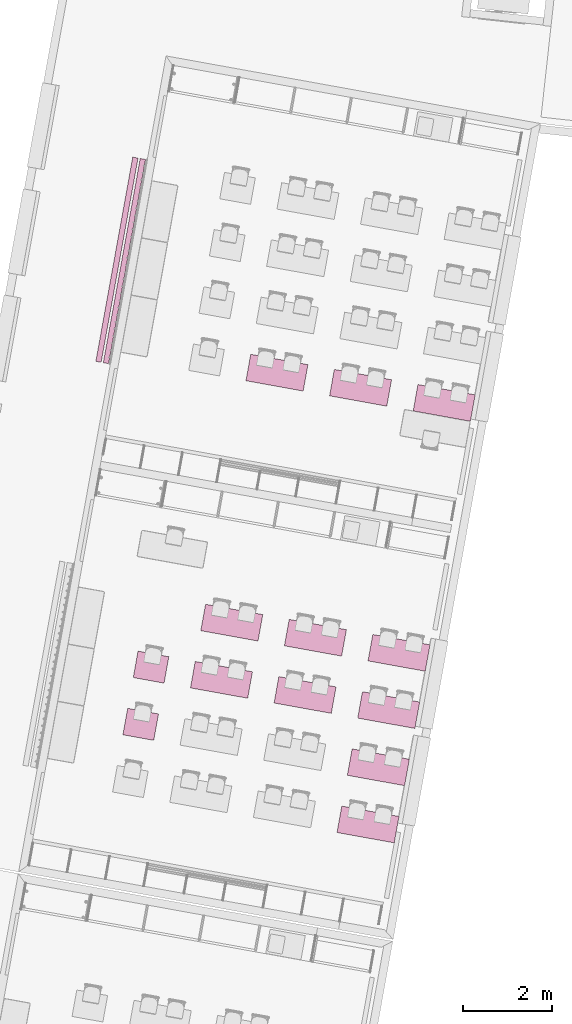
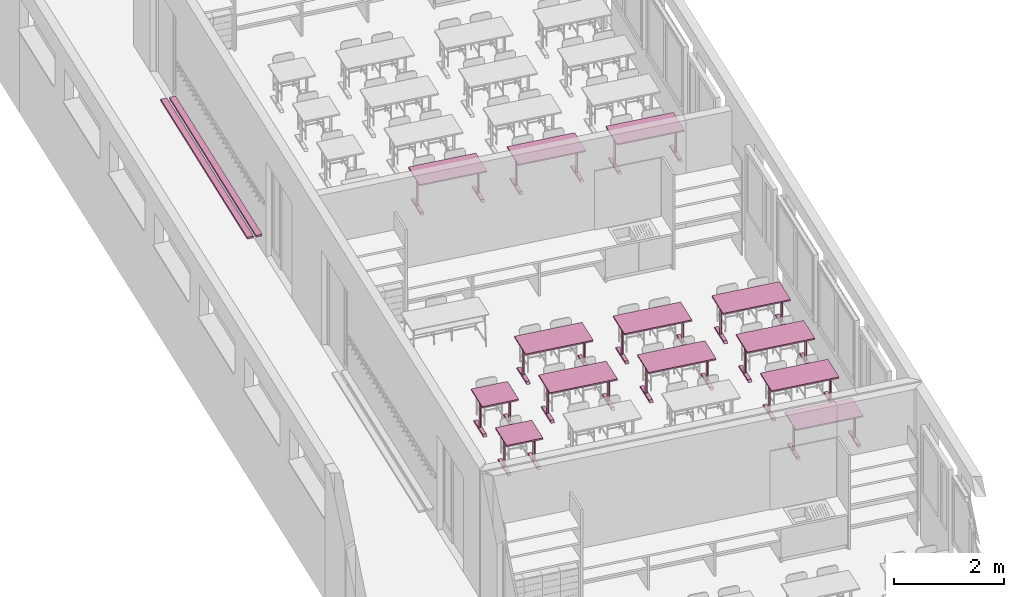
# One storey, part 11 of 79: 14 furnishings.
"""IFC2X3 building model written with IfcOpenShell, lengths in metres."""

from ifc_helpers import new_model, entity, si_unit, converted_unit, derived_unit, money_unit, direction, frame, origin_with_axes, place, context, subcontext, project, spatial, faceted_brep, source, transform, mapped, material, type_object, element, save


model = new_model("IFC2X3")

# Units and contexts
model_context = context("Model", 3, precision=1e-05, world=origin_with_axes(), true_north=direction((0.0, 1.0)))
body_context = subcontext(model_context, "Body", "Model", "MODEL_VIEW")
ifc_project = project(units=[si_unit("LENGTHUNIT", "METRE"), si_unit("AREAUNIT", "SQUARE_METRE"), si_unit("VOLUMEUNIT", "CUBIC_METRE"), converted_unit("PLANEANGLEUNIT", "DEGREE", entity("IfcPlaneAngleMeasure", 0.0174532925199), si_unit("PLANEANGLEUNIT", "RADIAN"), dimensions=[0, 0, 0, 0, 0, 0, 0]), money_unit("CHF"), converted_unit("TIMEUNIT", "Year", entity("IfcTimeMeasure", 31556926.0), si_unit("TIMEUNIT", "SECOND"), dimensions=[0, 0, 1, 0, 0, 0, 0]), si_unit("MASSUNIT", "GRAM", prefix="KILO"), si_unit("THERMODYNAMICTEMPERATUREUNIT", "DEGREE_CELSIUS"), si_unit("LUMINOUSINTENSITYUNIT", "LUMEN"), si_unit("ENERGYUNIT", "JOULE", prefix="MEGA"), derived_unit("THERMALCONDUCTANCEUNIT", [(si_unit("POWERUNIT", "WATT"), 1), (si_unit("LENGTHUNIT", "METRE"), -1), (si_unit("THERMODYNAMICTEMPERATUREUNIT", "KELVIN"), -1)]), derived_unit("SPECIFICHEATCAPACITYUNIT", [(si_unit("ENERGYUNIT", "JOULE"), 1), (si_unit("MASSUNIT", "GRAM", prefix="KILO"), -1), (si_unit("THERMODYNAMICTEMPERATUREUNIT", "KELVIN"), -1)]), derived_unit("MASSDENSITYUNIT", [(si_unit("MASSUNIT", "GRAM", prefix="KILO"), 1), (si_unit("VOLUMEUNIT", "CUBIC_METRE"), -1)])], contexts=[model_context])

# Site, building, storey
site_placement = place(None, frame((0.0, 0.0, 0.0), z_axis=(0.0, 0.0, 1.0), x_axis=(-0.177771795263, -0.984071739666, 0.0)))
site = spatial("IfcSite", under=ifc_project, at=site_placement, Name="Site", CompositionType="ELEMENT")
building_placement = place(site_placement, origin_with_axes())
building = spatial("IfcBuilding", under=site, at=building_placement, Name="Bâtiment", CompositionType="ELEMENT")
storey_placement = place(building_placement, origin_with_axes())
storey = spatial("IfcBuildingStorey", under=building, at=storey_placement, Name="RDC", CompositionType="ELEMENT", Elevation=0.0)

# Furnishings
ifc_material_1 = material(Name="Matériau de construction IFC")
furnishing_element_type_1 = type_object("IfcFurnishingElementType", Name="Table de bureau 21")
shared_shape_1 = source(origin_with_axes(), body_context, "Body", "Brep", [
    faceted_brep([(0.0, 0.0, 0.7), (0.0, 0.0, 0.67), (1.3, 0.0, 0.67), (1.3, 0.0, 0.7), (0.0, 0.6, 0.7), (0.0, 0.6, 0.67), (1.3, 0.6, 0.67), (1.3, 0.6, 0.7)], [[[0, 1, 2, 3]], [[4, 5, 1, 0]], [[1, 5, 6, 2]], [[3, 2, 6, 7]], [[0, 3, 7, 4]], [[7, 6, 5, 4]]]),
    faceted_brep([(0.03, 0.025, 0.0), (0.03, 0.575, 0.0), (0.1, 0.575, 0.0), (0.1, 0.025, 0.0), (0.03, 0.065, 0.04), (0.03, 0.535, 0.04), (0.1, 0.535, 0.04), (0.1, 0.065, 0.04)], [[[0, 1, 2, 3]], [[1, 0, 4, 5]], [[1, 5, 6, 2]], [[3, 2, 6, 7]], [[4, 0, 3, 7]], [[5, 4, 7, 6]]]),
    faceted_brep([(0.09, 0.3, 0.04), (0.065, 0.275, 0.04), (0.04, 0.3, 0.04), (0.065, 0.325, 0.04), (0.09, 0.3, 0.62), (0.065, 0.275, 0.62), (0.04, 0.3, 0.62), (0.065, 0.325, 0.62)], [[[0, 1, 2, 3]], [[1, 0, 4, 5]], [[2, 1, 5, 6]], [[3, 2, 6, 7]], [[0, 3, 7, 4]], [[4, 7, 6, 5]]]),
    faceted_brep([(0.085, 0.3, 0.62), (0.065, 0.28, 0.62), (0.045, 0.3, 0.62), (0.065, 0.32, 0.62), (0.085, 0.3, 0.67), (0.065, 0.28, 0.67), (0.045, 0.3, 0.67), (0.065, 0.32, 0.67)], [[[0, 1, 2, 3]], [[1, 0, 4, 5]], [[2, 1, 5, 6]], [[3, 2, 6, 7]], [[0, 3, 7, 4]], [[4, 7, 6, 5]]]),
    faceted_brep([(1.2, 0.025, 0.0), (1.2, 0.575, 0.0), (1.27, 0.575, 0.0), (1.27, 0.025, 0.0), (1.2, 0.065, 0.04), (1.2, 0.535, 0.04), (1.27, 0.535, 0.04), (1.27, 0.065, 0.04)], [[[0, 1, 2, 3]], [[1, 0, 4, 5]], [[1, 5, 6, 2]], [[3, 2, 6, 7]], [[0, 3, 7, 4]], [[5, 4, 7, 6]]]),
    faceted_brep([(1.26, 0.3, 0.04), (1.235, 0.275, 0.04), (1.21, 0.3, 0.04), (1.235, 0.325, 0.04), (1.26, 0.3, 0.62), (1.235, 0.275, 0.62), (1.21, 0.3, 0.62), (1.235, 0.325, 0.62)], [[[0, 1, 2, 3]], [[1, 0, 4, 5]], [[2, 1, 5, 6]], [[3, 2, 6, 7]], [[0, 3, 7, 4]], [[4, 7, 6, 5]]]),
    faceted_brep([(1.255, 0.3, 0.62), (1.235, 0.28, 0.62), (1.215, 0.3, 0.62), (1.235, 0.32, 0.62), (1.255, 0.3, 0.67), (1.235, 0.28, 0.67), (1.215, 0.3, 0.67), (1.235, 0.32, 0.67)], [[[0, 1, 2, 3]], [[1, 0, 4, 5]], [[2, 1, 5, 6]], [[3, 2, 6, 7]], [[0, 3, 7, 4]], [[4, 7, 6, 5]]]),
])
for number, where, z_axis, x_axis, name in (
    (1, (123.73484124, -151.677151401, 0.0), (0.0, 0.0, 1.0), (0.0, 1.0, 0.0), "bureau-2pl"),
    (2, (116.75484124, -149.777151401, 0.0), (0.0, 0.0, 1.0), (0.0, 1.0, 0.0), "bureau-2pl"),
    (3, (116.75484124, -151.677151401, 0.0), (0.0, 0.0, 1.0), (0.0, 1.0, 0.0), "bureau-2pl"),
    (4, (116.75484124, -153.577151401, 0.0), (0.0, 0.0, 1.0), (0.0, 1.0, 0.0), "bureau-2pl"),
    (5, (123.73484124, -153.577151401, 0.0), (0.0, 0.0, 1.0), (0.0, 1.0, 0.0), "bureau-2pl"),
    (6, (122.43484124, -153.577151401, 0.0), (0.0, 0.0, 1.0), (0.0, 1.0, 0.0), "bureau-2pl"),
    (7, (122.43484124, -151.677151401, 0.0), (0.0, 0.0, 1.0), (0.0, 1.0, 0.0), "bureau-2pl"),
    (8, (122.43484124, -149.777151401, 0.0), (0.0, 0.0, 1.0), (0.0, 1.0, 0.0), "bureau-2pl"),
    (9, (123.73484124, -149.777151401, 0.0), (0.0, 0.0, 1.0), (0.0, 1.0, 0.0), "bureau-2pl"),
    (10, (125.03484124, -149.777151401, 0.0), (0.0, 0.0, 1.0), (0.0, 1.0, 0.0), "bureau-2pl"),
    (11, (126.33484124, -149.777151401, 0.0), (0.0, 0.0, 1.0), (0.0, 1.0, 0.0), "bureau-2pl"),
):
    element("IfcFurnishingElement", number, at=place(storey_placement, frame(where, z_axis=z_axis, x_axis=x_axis)), inside=storey, type_object=furnishing_element_type_1, material=ifc_material_1, Name=name, ObjectType="SYSTEM_FURNITURE", context=body_context, shape_type="MappedRepresentation", body=[
        mapped(shared_shape_1, transform((0.0, 0.0, 0.0))),
    ])
shared_shape_2 = source(origin_with_axes(), body_context, "Body", "Brep", [
    faceted_brep([(0.0, 0.0, 0.7), (0.0, 0.0, 0.67), (0.7, 0.0, 0.67), (0.7, 0.0, 0.7), (0.0, 0.6, 0.7), (0.0, 0.6, 0.67), (0.7, 0.6, 0.67), (0.7, 0.6, 0.7)], [[[0, 1, 2, 3]], [[4, 5, 1, 0]], [[1, 5, 6, 2]], [[3, 2, 6, 7]], [[0, 3, 7, 4]], [[7, 6, 5, 4]]]),
    faceted_brep([(0.03, 0.025, 0.0), (0.03, 0.575, 0.0), (0.1, 0.575, 0.0), (0.1, 0.025, 0.0), (0.03, 0.065, 0.04), (0.03, 0.535, 0.04), (0.1, 0.535, 0.04), (0.1, 0.065, 0.04)], [[[0, 1, 2, 3]], [[1, 0, 4, 5]], [[1, 5, 6, 2]], [[3, 2, 6, 7]], [[4, 0, 3, 7]], [[5, 4, 7, 6]]]),
    faceted_brep([(0.09, 0.3, 0.04), (0.065, 0.275, 0.04), (0.04, 0.3, 0.04), (0.065, 0.325, 0.04), (0.09, 0.3, 0.62), (0.065, 0.275, 0.62), (0.04, 0.3, 0.62), (0.065, 0.325, 0.62)], [[[0, 1, 2, 3]], [[1, 0, 4, 5]], [[2, 1, 5, 6]], [[3, 2, 6, 7]], [[0, 3, 7, 4]], [[4, 7, 6, 5]]]),
    faceted_brep([(0.085, 0.3, 0.62), (0.065, 0.28, 0.62), (0.045, 0.3, 0.62), (0.065, 0.32, 0.62), (0.085, 0.3, 0.67), (0.065, 0.28, 0.67), (0.045, 0.3, 0.67), (0.065, 0.32, 0.67)], [[[0, 1, 2, 3]], [[1, 0, 4, 5]], [[2, 1, 5, 6]], [[3, 2, 6, 7]], [[0, 3, 7, 4]], [[4, 7, 6, 5]]]),
    faceted_brep([(0.6, 0.025, 0.0), (0.6, 0.575, 0.0), (0.67, 0.575, 0.0), (0.67, 0.025, 0.0), (0.6, 0.065, 0.04), (0.6, 0.535, 0.04), (0.67, 0.535, 0.04), (0.67, 0.065, 0.04)], [[[0, 1, 2, 3]], [[1, 0, 4, 5]], [[1, 5, 6, 2]], [[3, 2, 6, 7]], [[4, 0, 3, 7]], [[5, 4, 7, 6]]]),
    faceted_brep([(0.66, 0.3, 0.04), (0.635, 0.275, 0.04), (0.61, 0.3, 0.04), (0.635, 0.325, 0.04), (0.66, 0.3, 0.62), (0.635, 0.275, 0.62), (0.61, 0.3, 0.62), (0.635, 0.325, 0.62)], [[[0, 1, 2, 3]], [[1, 0, 4, 5]], [[2, 1, 5, 6]], [[3, 2, 6, 7]], [[0, 3, 7, 4]], [[4, 7, 6, 5]]]),
    faceted_brep([(0.655, 0.3, 0.62), (0.635, 0.28, 0.62), (0.615, 0.3, 0.62), (0.635, 0.32, 0.62), (0.655, 0.3, 0.67), (0.635, 0.28, 0.67), (0.615, 0.3, 0.67), (0.635, 0.32, 0.67)], [[[0, 1, 2, 3]], [[1, 0, 4, 5]], [[2, 1, 5, 6]], [[3, 2, 6, 7]], [[0, 3, 7, 4]], [[4, 7, 6, 5]]]),
])
for number, where, z_axis, x_axis, name in (
    (12, (123.73484124, -154.877151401, 0.0), (0.0, 0.0, 1.0), (0.0, 1.0, 0.0), "bureau-2pl"),
    (13, (125.03484124, -154.877151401, 0.0), (0.0, 0.0, 1.0), (0.0, 1.0, 0.0), "bureau-2pl"),
):
    element("IfcFurnishingElement", number, at=place(storey_placement, frame(where, z_axis=z_axis, x_axis=x_axis)), inside=storey, type_object=furnishing_element_type_1, material=ifc_material_1, Name=name, ObjectType="SYSTEM_FURNITURE", context=body_context, shape_type="MappedRepresentation", body=[
        mapped(shared_shape_2, transform((0.0, 0.0, 0.0))),
    ])
ifc_material_2 = material(Name="_Bois contreplaqué")
furnishing_element_type_2 = type_object("IfcFurnishingElementType", Name="Banc-couloir")
shared_shape_3 = source(origin_with_axes(), body_context, "Body", "Brep", [
    faceted_brep([(0.0, 0.0, 0.38), (2.3200000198, 0.0, 0.38), (2.3200000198, 0.0, 0.42), (0.0, 0.0, 0.42), (0.0, 0.12, 0.38), (2.3200000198, 0.12, 0.38), (2.3200000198, 0.12, 0.42), (0.0, 0.12, 0.42)], [[[0, 1, 2, 3]], [[0, 4, 5, 1]], [[1, 5, 6, 2]], [[3, 2, 6, 7]], [[4, 0, 3, 7]], [[5, 4, 7, 6]]]),
    faceted_brep([(0.0, 0.17, 0.38), (2.3200000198, 0.17, 0.38), (2.3200000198, 0.17, 0.42), (0.0, 0.17, 0.42), (0.0, 0.29, 0.38), (2.3200000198, 0.29, 0.38), (2.3200000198, 0.29, 0.42), (0.0, 0.29, 0.42)], [[[0, 1, 2, 3]], [[0, 4, 5, 1]], [[1, 5, 6, 2]], [[3, 2, 6, 7]], [[4, 0, 3, 7]], [[5, 4, 7, 6]]]),
    faceted_brep([(2.3199999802, 0.0, 0.38), (4.64, 0.0, 0.38), (4.64, 0.0, 0.42), (2.3199999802, 0.0, 0.42), (2.3199999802, 0.12, 0.38), (4.64, 0.12, 0.38), (4.64, 0.12, 0.42), (2.3199999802, 0.12, 0.42)], [[[0, 1, 2, 3]], [[0, 4, 5, 1]], [[1, 5, 6, 2]], [[3, 2, 6, 7]], [[4, 0, 3, 7]], [[5, 4, 7, 6]]]),
    faceted_brep([(2.3199999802, 0.17, 0.38), (4.64, 0.17, 0.38), (4.64, 0.17, 0.42), (2.3199999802, 0.17, 0.42), (2.3199999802, 0.29, 0.38), (4.64, 0.29, 0.38), (4.64, 0.29, 0.42), (2.3199999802, 0.29, 0.42)], [[[0, 1, 2, 3]], [[0, 4, 5, 1]], [[1, 5, 6, 2]], [[3, 2, 6, 7]], [[4, 0, 3, 7]], [[5, 4, 7, 6]]]),
])
furnishing_placement = place(storey_placement, frame((112.284841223, -156.957151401, 0.03), z_axis=(0.0, 0.0, 1.0), x_axis=(1.0, 0.0, 0.0)))
element("IfcFurnishingElement", 14, at=furnishing_placement, inside=storey, type_object=furnishing_element_type_2, material=ifc_material_2, Name="banc-couloir", ObjectType="SYSTEM_FURNITURE", context=body_context, shape_type="MappedRepresentation", body=[
    mapped(shared_shape_3, transform((0.0, 0.0, 0.0))),
])

save(model, "model.ifc")
